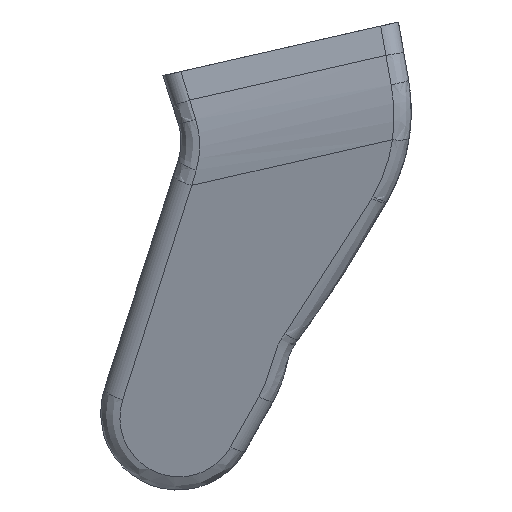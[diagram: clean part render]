
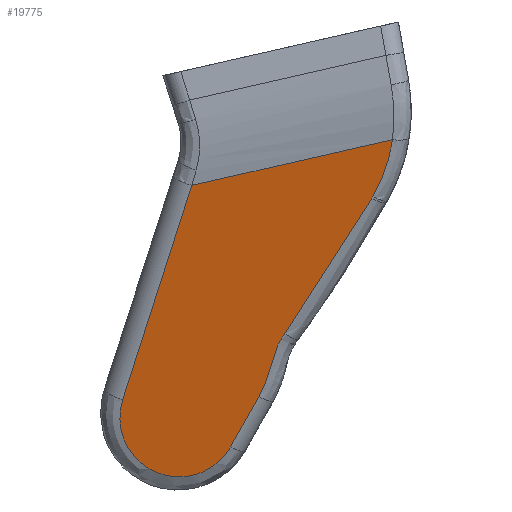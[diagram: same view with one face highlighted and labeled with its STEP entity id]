
A CAD part, left-side view. The second image highlights one B-rep face of the part: STEP entity #19775.
In plain terms, the highlighted planar face has unit normal (-0.961, -0.062, -0.27).
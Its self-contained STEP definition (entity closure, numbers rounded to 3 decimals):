
#58 = EDGE_CURVE ( 'NONE', #954, #967, #11875, .T. ) ;
#62 = EDGE_CURVE ( 'NONE', #967, #956, #9227, .T. ) ;
#64 = EDGE_CURVE ( 'NONE', #956, #969, #11893, .T. ) ;
#67 = EDGE_CURVE ( 'NONE', #969, #950, #15643, .T. ) ;
#70 = EDGE_CURVE ( 'NONE', #950, #961, #9226, .T. ) ;
#73 = EDGE_CURVE ( 'NONE', #961, #965, #11958, .T. ) ;
#76 = EDGE_CURVE ( 'NONE', #965, #973, #9164, .T. ) ;
#950 = VERTEX_POINT ( 'NONE', #13230 ) ;
#954 = VERTEX_POINT ( 'NONE', #13232 ) ;
#956 = VERTEX_POINT ( 'NONE', #13233 ) ;
#961 = VERTEX_POINT ( 'NONE', #13235 ) ;
#965 = VERTEX_POINT ( 'NONE', #13237 ) ;
#967 = VERTEX_POINT ( 'NONE', #13238 ) ;
#969 = VERTEX_POINT ( 'NONE', #13239 ) ;
#973 = VERTEX_POINT ( 'NONE', #13241 ) ;
#1532 = EDGE_LOOP ( 'NONE', ( #1640, #1641, #1642, #1643, #1644, #1645, #1646, #1647 ) ) ;
#1640 = ORIENTED_EDGE ( 'NONE', *, *, #19861, .F. ) ;
#1641 = ORIENTED_EDGE ( 'NONE', *, *, #58, .T. ) ;
#1642 = ORIENTED_EDGE ( 'NONE', *, *, #62, .T. ) ;
#1643 = ORIENTED_EDGE ( 'NONE', *, *, #64, .T. ) ;
#1644 = ORIENTED_EDGE ( 'NONE', *, *, #67, .T. ) ;
#1645 = ORIENTED_EDGE ( 'NONE', *, *, #70, .T. ) ;
#1646 = ORIENTED_EDGE ( 'NONE', *, *, #73, .T. ) ;
#1647 = ORIENTED_EDGE ( 'NONE', *, *, #76, .T. ) ;
#7380 = AXIS2_PLACEMENT_3D ( 'NONE', #7878, #7911, #7912 ) ;
#7876 = FACE_OUTER_BOUND ( 'NONE', #1532, .T. ) ;
#7878 = CARTESIAN_POINT ( 'NONE',  ( -214.929, 52.29, 32.463 ) ) ;
#7909 = PLANE ( 'NONE',  #7380 ) ;
#7911 = DIRECTION ( 'NONE',  ( -0.961, -0.062, -0.27 ) ) ;
#7912 = DIRECTION ( 'NONE',  ( -0.277, 0.214, 0.937 ) ) ;
#8239 = LINE ( 'NONE', #8240, #8613 ) ;
#8240 = CARTESIAN_POINT ( 'NONE',  ( -214.929, 52.29, 32.463 ) ) ;
#8247 = DIRECTION ( 'NONE',  ( 0., -0.975, 0.222 ) ) ;
#8613 = VECTOR ( 'NONE', #8247, 1000. ) ;
#9156 = VECTOR ( 'NONE', #11879, 1000. ) ;
#9164 =( BOUNDED_CURVE ( )  B_SPLINE_CURVE ( 3, ( #11967, #11968, #11973, #11974 ),
 .UNSPECIFIED., .F., .T. ) 
 B_SPLINE_CURVE_WITH_KNOTS ( ( 4, 4 ),
 ( 3.971, 4.342 ),
 .UNSPECIFIED. ) 
 CURVE ( )  GEOMETRIC_REPRESENTATION_ITEM ( )  RATIONAL_B_SPLINE_CURVE ( ( 1., 0.989, 0.989, 1. ) ) 
 REPRESENTATION_ITEM ( '' )  );
#9226 =( BOUNDED_CURVE ( )  B_SPLINE_CURVE ( 3, ( #11947, #11951, #11952, #11953 ),
 .UNSPECIFIED., .F., .T. ) 
 B_SPLINE_CURVE_WITH_KNOTS ( ( 4, 4 ),
 ( 3.876, 4.902 ),
 .UNSPECIFIED. ) 
 CURVE ( )  GEOMETRIC_REPRESENTATION_ITEM ( )  RATIONAL_B_SPLINE_CURVE ( ( 1., 0.914, 0.914, 1. ) ) 
 REPRESENTATION_ITEM ( '' )  );
#9227 =( BOUNDED_CURVE ( )  B_SPLINE_CURVE ( 3, ( #11886, #11885, #11891, #11892 ),
 .UNSPECIFIED., .F., .T. ) 
 B_SPLINE_CURVE_WITH_KNOTS ( ( 4, 4 ),
 ( 1.035, 3.971 ),
 .UNSPECIFIED. ) 
 CURVE ( )  GEOMETRIC_REPRESENTATION_ITEM ( )  RATIONAL_B_SPLINE_CURVE ( ( 1., 0.402, 0.402, 1. ) ) 
 REPRESENTATION_ITEM ( '' )  );
#11867 = CARTESIAN_POINT ( 'NONE',  ( -212.138, 32.927, 26.948 ) ) ;
#11875 = LINE ( 'NONE', #11867, #9156 ) ;
#11879 = DIRECTION ( 'NONE',  ( 0.241, 0.298, -0.924 ) ) ;
#11885 = CARTESIAN_POINT ( 'NONE',  ( -201.682, 45.869, -13.201 ) ) ;
#11886 = CARTESIAN_POINT ( 'NONE',  ( -205.692, 40.905, 2.196 ) ) ;
#11887 = CARTESIAN_POINT ( 'NONE',  ( -206.684, 12.957, 12.098 ) ) ;
#11891 = CARTESIAN_POINT ( 'NONE',  ( -198.902, 31.062, -19.718 ) ) ;
#11892 = CARTESIAN_POINT ( 'NONE',  ( -202.341, 23.061, -5.657 ) ) ;
#11893 = LINE ( 'NONE', #11887, #14240 ) ;
#11897 = DIRECTION ( 'NONE',  ( -0.208, -0.484, 0.85 ) ) ;
#11921 = CARTESIAN_POINT ( 'NONE',  ( -204.374, 18.332, 2.652 ) ) ;
#11922 = CARTESIAN_POINT ( 'NONE',  ( -204.578, 17.857, 3.488 ) ) ;
#11923 = CARTESIAN_POINT ( 'NONE',  ( -204.801, 17.499, 4.363 ) ) ;
#11924 = CARTESIAN_POINT ( 'NONE',  ( -205.263, 16.881, 6.145 ) ) ;
#11925 = CARTESIAN_POINT ( 'NONE',  ( -205.502, 16.624, 7.054 ) ) ;
#11926 = CARTESIAN_POINT ( 'NONE',  ( -205.978, 16.098, 8.867 ) ) ;
#11927 = CARTESIAN_POINT ( 'NONE',  ( -206.215, 15.83, 9.772 ) ) ;
#11928 = CARTESIAN_POINT ( 'NONE',  ( -206.547, 15.285, 11.077 ) ) ;
#11929 = CARTESIAN_POINT ( 'NONE',  ( -206.653, 15.078, 11.503 ) ) ;
#11930 = CARTESIAN_POINT ( 'NONE',  ( -206.856, 14.602, 12.332 ) ) ;
#11931 = CARTESIAN_POINT ( 'NONE',  ( -206.952, 14.33, 12.736 ) ) ;
#11932 = CARTESIAN_POINT ( 'NONE',  ( -207.041, 14.036, 13.122 ) ) ;
#11947 = CARTESIAN_POINT ( 'NONE',  ( -207.041, 14.036, 13.122 ) ) ;
#11951 = CARTESIAN_POINT ( 'NONE',  ( -208.322, 9.845, 18.632 ) ) ;
#11952 = CARTESIAN_POINT ( 'NONE',  ( -210.28, 4.594, 26.795 ) ) ;
#11953 = CARTESIAN_POINT ( 'NONE',  ( -212.412, -0.365, 35.511 ) ) ;
#11957 = CARTESIAN_POINT ( 'NONE',  ( -206.684, 12.957, 12.098 ) ) ;
#11958 = LINE ( 'NONE', #11957, #19756 ) ;
#11962 = DIRECTION ( 'NONE',  ( -0.208, -0.484, 0.85 ) ) ;
#11967 = CARTESIAN_POINT ( 'NONE',  ( -212.487, -0.541, 35.819 ) ) ;
#11968 = CARTESIAN_POINT ( 'NONE',  ( -213.202, -2.204, 38.741 ) ) ;
#11973 = CARTESIAN_POINT ( 'NONE',  ( -214.025, -3.298, 41.919 ) ) ;
#11974 = CARTESIAN_POINT ( 'NONE',  ( -214.929, -3.787, 45.245 ) ) ;
#13230 = CARTESIAN_POINT ( 'NONE',  ( -207.041, 14.036, 13.122 ) ) ;
#13232 = CARTESIAN_POINT ( 'NONE',  ( -214.929, 29.472, 37.664 ) ) ;
#13233 = CARTESIAN_POINT ( 'NONE',  ( -202.341, 23.061, -5.657 ) ) ;
#13235 = CARTESIAN_POINT ( 'NONE',  ( -212.412, -0.365, 35.511 ) ) ;
#13237 = CARTESIAN_POINT ( 'NONE',  ( -212.487, -0.541, 35.819 ) ) ;
#13238 = CARTESIAN_POINT ( 'NONE',  ( -205.692, 40.905, 2.196 ) ) ;
#13239 = CARTESIAN_POINT ( 'NONE',  ( -204.374, 18.332, 2.652 ) ) ;
#13241 = CARTESIAN_POINT ( 'NONE',  ( -214.929, -3.787, 45.245 ) ) ;
#14240 = VECTOR ( 'NONE', #11897, 1000. ) ;
#15643 = B_SPLINE_CURVE_WITH_KNOTS ( 'NONE', 3,
 ( #11921, #11922, #11923, #11924, #11925, #11926, #11927, #11928, #11929, #11930, #11931, #11932 ),
 .UNSPECIFIED., .F., .F.,
 ( 4, 2, 2, 2, 2, 4 ),
 ( 0., 0.003, 0.006, 0.009, 0.01, 0.012 ),
 .UNSPECIFIED. ) ;
#19756 = VECTOR ( 'NONE', #11962, 1000. ) ;
#19775 = ADVANCED_FACE ( 'NONE', ( #7876 ), #7909, .T. ) ;
#19861 = EDGE_CURVE ( 'NONE', #954, #973, #8239, .T. ) ;
